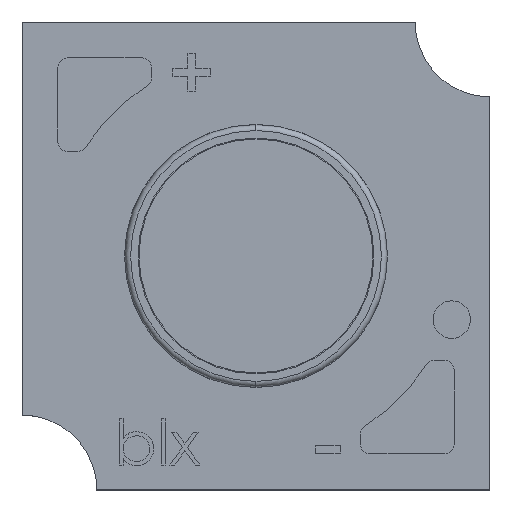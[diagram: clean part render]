
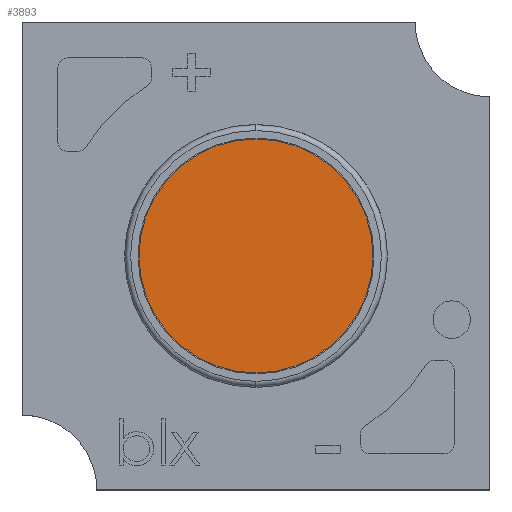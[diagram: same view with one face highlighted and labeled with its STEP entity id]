
A CAD part, top view. The second image highlights one B-rep face of the part: STEP entity #3893.
In plain terms, the highlighted planar face has unit normal (0, 0, 1).
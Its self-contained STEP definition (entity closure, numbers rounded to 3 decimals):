
#1103 = AXIS2_PLACEMENT_3D ( 'NONE', #3190, #3230, #3547 ) ;
#1556 = DIRECTION ( 'NONE',  ( 0., -1., 0. ) ) ;
#1622 = DIRECTION ( 'NONE',  ( 0., 0., 1. ) ) ;
#2084 = DIRECTION ( 'NONE',  ( 0., -1., 0. ) ) ;
#2208 = VERTEX_POINT ( 'NONE', #2225 ) ;
#2225 = CARTESIAN_POINT ( 'NONE',  ( -2.668, -2.398, 13.443 ) ) ;
#2244 = EDGE_CURVE ( 'NONE', #2208, #5086, #4456, .T. ) ;
#2483 = EDGE_CURVE ( 'NONE', #5086, #2208, #4509, .T. ) ;
#3011 = FACE_OUTER_BOUND ( 'NONE', #4290, .T. ) ;
#3190 = CARTESIAN_POINT ( 'NONE',  ( -2.668, 0.727, 13.443 ) ) ;
#3230 = DIRECTION ( 'NONE',  ( 0., 0., 1. ) ) ;
#3547 = DIRECTION ( 'NONE',  ( 1., 0., 0. ) ) ;
#3586 = ORIENTED_EDGE ( 'NONE', *, *, #2244, .T. ) ;
#3778 = CARTESIAN_POINT ( 'NONE',  ( -2.668, 0.727, 13.443 ) ) ;
#3893 = ADVANCED_FACE ( 'NONE', ( #3011 ), #5319, .T. ) ;
#3980 = CARTESIAN_POINT ( 'NONE',  ( -2.668, 3.852, 13.443 ) ) ;
#4125 = DIRECTION ( 'NONE',  ( 0., 0., 1. ) ) ;
#4290 = EDGE_LOOP ( 'NONE', ( #4362, #3586 ) ) ;
#4362 = ORIENTED_EDGE ( 'NONE', *, *, #2483, .T. ) ;
#4456 = CIRCLE ( 'NONE', #5440, 3.125 ) ;
#4509 = CIRCLE ( 'NONE', #5336, 3.125 ) ;
#5086 = VERTEX_POINT ( 'NONE', #3980 ) ;
#5319 = PLANE ( 'NONE',  #1103 ) ;
#5336 = AXIS2_PLACEMENT_3D ( 'NONE', #5463, #1622, #1556 ) ;
#5440 = AXIS2_PLACEMENT_3D ( 'NONE', #3778, #4125, #2084 ) ;
#5463 = CARTESIAN_POINT ( 'NONE',  ( -2.668, 0.727, 13.443 ) ) ;
